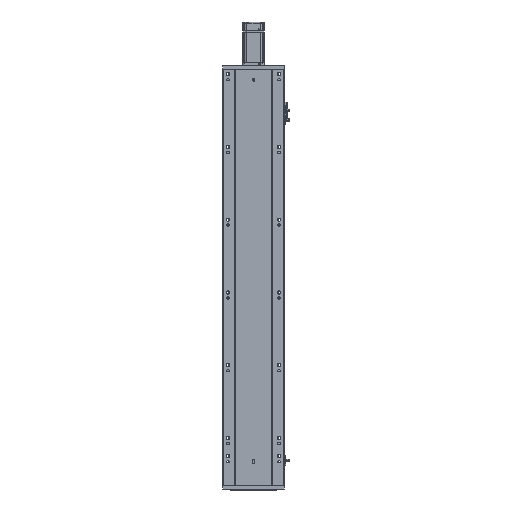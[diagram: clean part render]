
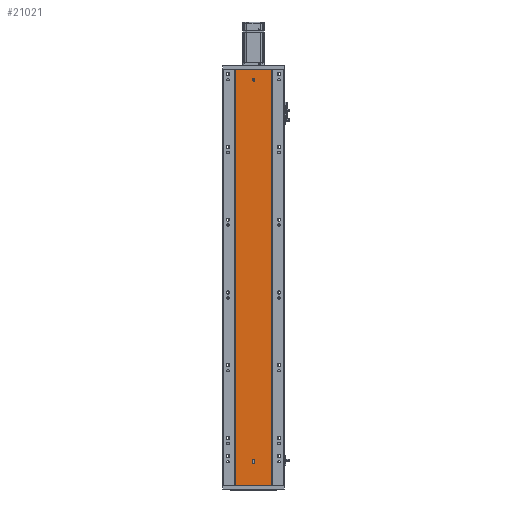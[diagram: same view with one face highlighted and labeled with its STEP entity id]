
A CAD part, front view. The second image highlights one B-rep face of the part: STEP entity #21021.
In plain terms, the highlighted planar face has unit normal (0, -1, 0).
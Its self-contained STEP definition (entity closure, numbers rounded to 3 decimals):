
#518 = EDGE_CURVE ( 'NONE', #1986, #8700, #62897, .T. ) ;
#935 = EDGE_LOOP ( 'NONE', ( #68297, #63442, #15813, #67997 ) ) ;
#1383 = DIRECTION ( 'NONE',  ( 0., 0., -1. ) ) ;
#1775 = EDGE_CURVE ( 'NONE', #67594, #1986, #48993, .T. ) ;
#1986 = VERTEX_POINT ( 'NONE', #38931 ) ;
#2229 = CARTESIAN_POINT ( 'NONE',  ( 136.47, 79.476, 64.5 ) ) ;
#2415 = CARTESIAN_POINT ( 'NONE',  ( 86.97, 79.476, 762.667 ) ) ;
#2669 = CARTESIAN_POINT ( 'NONE',  ( 185.97, 79.476, 0. ) ) ;
#2701 = VERTEX_POINT ( 'NONE', #18056 ) ;
#5072 = VERTEX_POINT ( 'NONE', #24055 ) ;
#6493 = ORIENTED_EDGE ( 'NONE', *, *, #13807, .F. ) ;
#7790 = EDGE_LOOP ( 'NONE', ( #67507, #36292, #6493, #40756, #30428 ) ) ;
#8096 = CARTESIAN_POINT ( 'NONE',  ( 185.97, 79.476, 1144. ) ) ;
#8234 = DIRECTION ( 'NONE',  ( 0., -1., 0. ) ) ;
#8700 = VERTEX_POINT ( 'NONE', #59219 ) ;
#9756 = EDGE_CURVE ( 'NONE', #2701, #39663, #38197, .T. ) ;
#10051 = EDGE_CURVE ( 'NONE', #2701, #39226, #51347, .T. ) ;
#10318 = VERTEX_POINT ( 'NONE', #2669 ) ;
#11609 = DIRECTION ( 'NONE',  ( 0., -1., 0. ) ) ;
#12330 = CARTESIAN_POINT ( 'NONE',  ( 86.97, 79.476, 1144. ) ) ;
#12993 = CARTESIAN_POINT ( 'NONE',  ( 140.47, 79.476, 67.5 ) ) ;
#13257 = CARTESIAN_POINT ( 'NONE',  ( 86.97, 79.476, 381.333 ) ) ;
#13807 = EDGE_CURVE ( 'NONE', #5072, #30848, #66371, .T. ) ;
#15813 = ORIENTED_EDGE ( 'NONE', *, *, #9756, .F. ) ;
#17284 = DIRECTION ( 'NONE',  ( 0., 0., -1. ) ) ;
#18056 = CARTESIAN_POINT ( 'NONE',  ( 86.97, 79.476, 1144. ) ) ;
#18602 = DIRECTION ( 'NONE',  ( 0., 0., -1. ) ) ;
#18660 = CARTESIAN_POINT ( 'NONE',  ( 86.97, 79.476, 0. ) ) ;
#21021 = ADVANCED_FACE ( 'NONE', ( #28159, #35693, #61811 ), #64703, .F. ) ;
#21266 = EDGE_CURVE ( 'NONE', #60156, #63092, #44993, .T. ) ;
#23536 = CARTESIAN_POINT ( 'NONE',  ( 132.47, 79.476, 67.5 ) ) ;
#24055 = CARTESIAN_POINT ( 'NONE',  ( 140.47, 79.476, 67.5 ) ) ;
#28159 = FACE_BOUND ( 'NONE', #7790, .T. ) ;
#29698 = VECTOR ( 'NONE', #50100, 1000. ) ;
#29732 = VECTOR ( 'NONE', #37723, 1000. ) ;
#30102 = CARTESIAN_POINT ( 'NONE',  ( 136.47, 79.476, 1120. ) ) ;
#30379 = CARTESIAN_POINT ( 'NONE',  ( 185.97, 79.476, 381.333 ) ) ;
#30428 = ORIENTED_EDGE ( 'NONE', *, *, #518, .F. ) ;
#30848 = VERTEX_POINT ( 'NONE', #48907 ) ;
#32439 = DIRECTION ( 'NONE',  ( 0., 1., 0. ) ) ;
#33146 = B_SPLINE_CURVE_WITH_KNOTS ( 'NONE', 3,
 ( #57619, #57163, #30379, #45025 ),
 .UNSPECIFIED., .F., .F.,
 ( 4, 4 ),
 ( 0., 1. ),
 .UNSPECIFIED. ) ;
#33520 = AXIS2_PLACEMENT_3D ( 'NONE', #2229, #8234, #61899 ) ;
#33744 = EDGE_CURVE ( 'NONE', #30848, #67594, #35273, .T. ) ;
#35273 = LINE ( 'NONE', #23536, #39475 ) ;
#35693 = FACE_BOUND ( 'NONE', #41298, .T. ) ;
#36292 = ORIENTED_EDGE ( 'NONE', *, *, #33744, .F. ) ;
#36343 = EDGE_CURVE ( 'NONE', #63092, #60156, #40940, .T. ) ;
#37723 = DIRECTION ( 'NONE',  ( 1., 0., 0. ) ) ;
#38101 = CARTESIAN_POINT ( 'NONE',  ( 0., 79.476, 1144. ) ) ;
#38197 = LINE ( 'NONE', #42910, #29732 ) ;
#38342 = DIRECTION ( 'NONE',  ( 0., 0., 1. ) ) ;
#38931 = CARTESIAN_POINT ( 'NONE',  ( 136.47, 79.476, 60.5 ) ) ;
#39149 = EDGE_CURVE ( 'NONE', #39226, #10318, #40621, .T. ) ;
#39226 = VERTEX_POINT ( 'NONE', #59132 ) ;
#39475 = VECTOR ( 'NONE', #18602, 1000. ) ;
#39663 = VERTEX_POINT ( 'NONE', #8096 ) ;
#40144 = CARTESIAN_POINT ( 'NONE',  ( 132.47, 79.476, 64.5 ) ) ;
#40621 = LINE ( 'NONE', #57225, #42306 ) ;
#40756 = ORIENTED_EDGE ( 'NONE', *, *, #68535, .F. ) ;
#40940 = CIRCLE ( 'NONE', #42672, 4. ) ;
#41298 = EDGE_LOOP ( 'NONE', ( #59715, #62667 ) ) ;
#42306 = VECTOR ( 'NONE', #62693, 1000. ) ;
#42672 = AXIS2_PLACEMENT_3D ( 'NONE', #55728, #45443, #66855 ) ;
#42910 = CARTESIAN_POINT ( 'NONE',  ( 0., 79.476, 1144. ) ) ;
#43810 = CARTESIAN_POINT ( 'NONE',  ( 136.47, 79.476, 67.5 ) ) ;
#44993 = CIRCLE ( 'NONE', #58540, 4. ) ;
#45025 = CARTESIAN_POINT ( 'NONE',  ( 185.97, 79.476, 0. ) ) ;
#45443 = DIRECTION ( 'NONE',  ( 0., -1., 0. ) ) ;
#47150 = EDGE_CURVE ( 'NONE', #39663, #10318, #33146, .T. ) ;
#48879 = CARTESIAN_POINT ( 'NONE',  ( 136.47, 79.476, 64.5 ) ) ;
#48907 = CARTESIAN_POINT ( 'NONE',  ( 132.47, 79.476, 67.5 ) ) ;
#48993 = CIRCLE ( 'NONE', #51112, 4. ) ;
#49677 = CARTESIAN_POINT ( 'NONE',  ( 136.47, 79.476, 1116. ) ) ;
#50100 = DIRECTION ( 'NONE',  ( 0., 0., 1. ) ) ;
#51112 = AXIS2_PLACEMENT_3D ( 'NONE', #48879, #59909, #1383 ) ;
#51334 = CARTESIAN_POINT ( 'NONE',  ( 136.47, 79.476, 1112. ) ) ;
#51347 = B_SPLINE_CURVE_WITH_KNOTS ( 'NONE', 3,
 ( #12330, #2415, #13257, #18660 ),
 .UNSPECIFIED., .F., .F.,
 ( 4, 4 ),
 ( 0., 1. ),
 .UNSPECIFIED. ) ;
#55728 = CARTESIAN_POINT ( 'NONE',  ( 136.47, 79.476, 1116. ) ) ;
#57163 = CARTESIAN_POINT ( 'NONE',  ( 185.97, 79.476, 762.667 ) ) ;
#57225 = CARTESIAN_POINT ( 'NONE',  ( 0., 79.476, 0. ) ) ;
#57619 = CARTESIAN_POINT ( 'NONE',  ( 185.97, 79.476, 1144. ) ) ;
#58287 = LINE ( 'NONE', #12993, #29698 ) ;
#58540 = AXIS2_PLACEMENT_3D ( 'NONE', #49677, #65699, #17284 ) ;
#59132 = CARTESIAN_POINT ( 'NONE',  ( 86.97, 79.476, 0. ) ) ;
#59219 = CARTESIAN_POINT ( 'NONE',  ( 140.47, 79.476, 64.5 ) ) ;
#59715 = ORIENTED_EDGE ( 'NONE', *, *, #21266, .F. ) ;
#59909 = DIRECTION ( 'NONE',  ( 0., -1., 0. ) ) ;
#60013 = DIRECTION ( 'NONE',  ( 0., 0., -1. ) ) ;
#60156 = VERTEX_POINT ( 'NONE', #51334 ) ;
#61811 = FACE_OUTER_BOUND ( 'NONE', #935, .T. ) ;
#61899 = DIRECTION ( 'NONE',  ( 0., 0., -1. ) ) ;
#62667 = ORIENTED_EDGE ( 'NONE', *, *, #36343, .F. ) ;
#62693 = DIRECTION ( 'NONE',  ( 1., 0., 0. ) ) ;
#62897 = CIRCLE ( 'NONE', #33520, 4. ) ;
#63092 = VERTEX_POINT ( 'NONE', #30102 ) ;
#63442 = ORIENTED_EDGE ( 'NONE', *, *, #47150, .F. ) ;
#64036 = AXIS2_PLACEMENT_3D ( 'NONE', #43810, #11609, #60013 ) ;
#64703 = PLANE ( 'NONE',  #66215 ) ;
#65699 = DIRECTION ( 'NONE',  ( 0., -1., 0. ) ) ;
#66215 = AXIS2_PLACEMENT_3D ( 'NONE', #38101, #32439, #38342 ) ;
#66371 = CIRCLE ( 'NONE', #64036, 4. ) ;
#66855 = DIRECTION ( 'NONE',  ( 0., 0., -1. ) ) ;
#67507 = ORIENTED_EDGE ( 'NONE', *, *, #1775, .F. ) ;
#67594 = VERTEX_POINT ( 'NONE', #40144 ) ;
#67997 = ORIENTED_EDGE ( 'NONE', *, *, #10051, .T. ) ;
#68297 = ORIENTED_EDGE ( 'NONE', *, *, #39149, .T. ) ;
#68535 = EDGE_CURVE ( 'NONE', #8700, #5072, #58287, .T. ) ;
